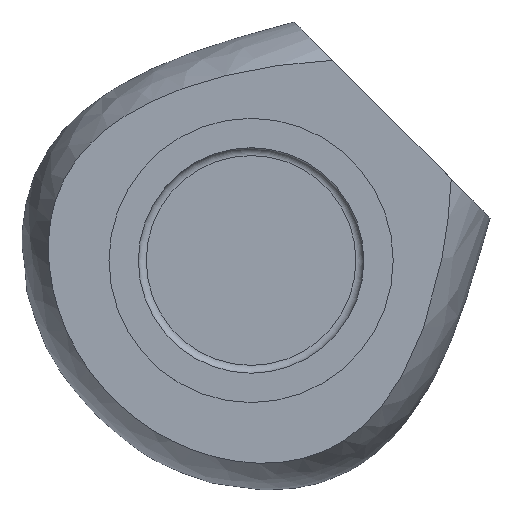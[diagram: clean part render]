
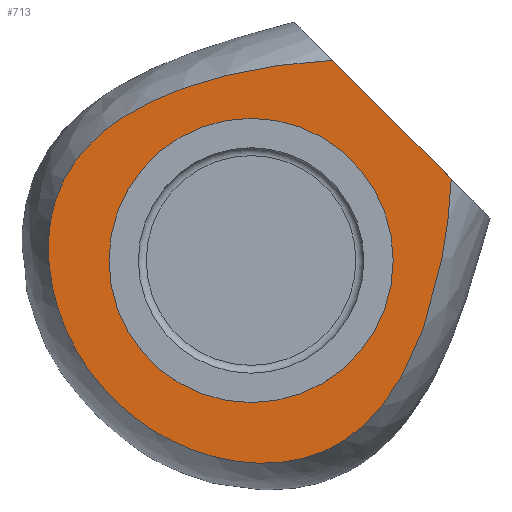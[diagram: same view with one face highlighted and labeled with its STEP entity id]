
A CAD part, top view. The second image highlights one B-rep face of the part: STEP entity #713.
In plain terms, the highlighted planar face has unit normal (0, 0, 1) by its records, which use the part's own axes.
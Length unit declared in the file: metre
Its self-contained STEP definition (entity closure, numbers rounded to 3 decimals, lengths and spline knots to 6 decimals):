
#29=CIRCLE('',#779,0.01653);
#53=B_SPLINE_CURVE_WITH_KNOTS('',3,(#1538,#1539,#1540,#1541,#1542,#1543,
#1544,#1545,#1546,#1547,#1548,#1549,#1550,#1551,#1552,#1553,#1554,#1555,
#1556,#1557,#1558,#1559,#1560,#1561,#1562,#1563,#1564,#1565,#1566,#1567,
#1568),.UNSPECIFIED.,.F.,.F.,(4,1,1,1,1,1,1,1,1,1,1,1,1,1,1,1,1,1,1,1,1,
1,1,1,1,1,1,1,4),(0.,0.007849,0.015697,0.023546,
0.02747,0.031395,0.035319,0.039244,
0.043168,0.047092,0.051017,0.054941,
0.058865,0.06279,0.066714,0.070638,
0.074563,0.078487,0.082411,0.086336,
0.088298,0.09026,0.094185,0.098109,
0.102033,0.105958,0.109882,0.117731,
0.125579),.UNSPECIFIED.);
#108=ORIENTED_EDGE('',*,*,#299,.F.);
#109=ORIENTED_EDGE('',*,*,#274,.F.);
#110=ORIENTED_EDGE('',*,*,#271,.F.);
#271=EDGE_CURVE('',#369,#371,#53,.T.);
#274=EDGE_CURVE('',#371,#369,#428,.T.);
#299=EDGE_CURVE('',#393,#393,#29,.T.);
#369=VERTEX_POINT('',#1536);
#371=VERTEX_POINT('',#1569);
#393=VERTEX_POINT('',#1833);
#428=LINE('',#1604,#495);
#495=VECTOR('',#846,1.);
#566=EDGE_LOOP('',(#108));
#567=EDGE_LOOP('',(#109,#110));
#625=FACE_BOUND('',#566,.T.);
#626=FACE_BOUND('',#567,.T.);
#678=PLANE('',#778);
#713=ADVANCED_FACE('',(#625,#626),#678,.T.);
#778=AXIS2_PLACEMENT_3D('',#1831,#881,#882);
#779=AXIS2_PLACEMENT_3D('',#1832,#883,#884);
#846=DIRECTION('',(0.707,-0.707,0.));
#881=DIRECTION('',(0.,0.,1.));
#882=DIRECTION('',(0.,-1.,0.));
#883=DIRECTION('',(0.,0.,1.));
#884=DIRECTION('',(0.,-1.,0.));
#1536=CARTESIAN_POINT('',(-0.122406,-0.086346,0.01223));
#1538=CARTESIAN_POINT('',(-0.122406,-0.086346,0.01223));
#1539=CARTESIAN_POINT('',(-0.122516,-0.088991,0.01223));
#1540=CARTESIAN_POINT('',(-0.123087,-0.094211,0.01223));
#1541=CARTESIAN_POINT('',(-0.124818,-0.101869,0.01223));
#1542=CARTESIAN_POINT('',(-0.127281,-0.108054,0.01223));
#1543=CARTESIAN_POINT('',(-0.130178,-0.112536,0.01223));
#1544=CARTESIAN_POINT('',(-0.132847,-0.115424,0.01223));
#1545=CARTESIAN_POINT('',(-0.136163,-0.117709,0.01223));
#1546=CARTESIAN_POINT('',(-0.139924,-0.119077,0.01223));
#1547=CARTESIAN_POINT('',(-0.143893,-0.119534,0.01223));
#1548=CARTESIAN_POINT('',(-0.147885,-0.119205,0.01223));
#1549=CARTESIAN_POINT('',(-0.151713,-0.118234,0.01223));
#1550=CARTESIAN_POINT('',(-0.155397,-0.116657,0.01223));
#1551=CARTESIAN_POINT('',(-0.158748,-0.114564,0.01223));
#1552=CARTESIAN_POINT('',(-0.161787,-0.111952,0.01223));
#1553=CARTESIAN_POINT('',(-0.164359,-0.108976,0.01223));
#1554=CARTESIAN_POINT('',(-0.166497,-0.105574,0.01223));
#1555=CARTESIAN_POINT('',(-0.168053,-0.10197,0.01223));
#1556=CARTESIAN_POINT('',(-0.169054,-0.098086,0.01223));
#1557=CARTESIAN_POINT('',(-0.169394,-0.094147,0.01223));
#1558=CARTESIAN_POINT('',(-0.169027,-0.090806,0.01223));
#1559=CARTESIAN_POINT('',(-0.168288,-0.088279,0.01223));
#1560=CARTESIAN_POINT('',(-0.167225,-0.085818,0.01223));
#1561=CARTESIAN_POINT('',(-0.165364,-0.083078,0.01223));
#1562=CARTESIAN_POINT('',(-0.162423,-0.080338,0.01223));
#1563=CARTESIAN_POINT('',(-0.159109,-0.078188,0.01223));
#1564=CARTESIAN_POINT('',(-0.1555,-0.076466,0.01223));
#1565=CARTESIAN_POINT('',(-0.150564,-0.0747,0.01223));
#1566=CARTESIAN_POINT('',(-0.144112,-0.07323,0.01223));
#1567=CARTESIAN_POINT('',(-0.138852,-0.072656,0.01223));
#1568=CARTESIAN_POINT('',(-0.136205,-0.072547,0.01223));
#1569=CARTESIAN_POINT('',(-0.136205,-0.072547,0.01223));
#1604=CARTESIAN_POINT('',(-0.123599,-0.085153,0.01223));
#1831=CARTESIAN_POINT('',(-0.16986,-0.071634,0.01223));
#1832=CARTESIAN_POINT('',(-0.145677,-0.095817,0.01223));
#1833=CARTESIAN_POINT('',(-0.145677,-0.112347,0.01223));
